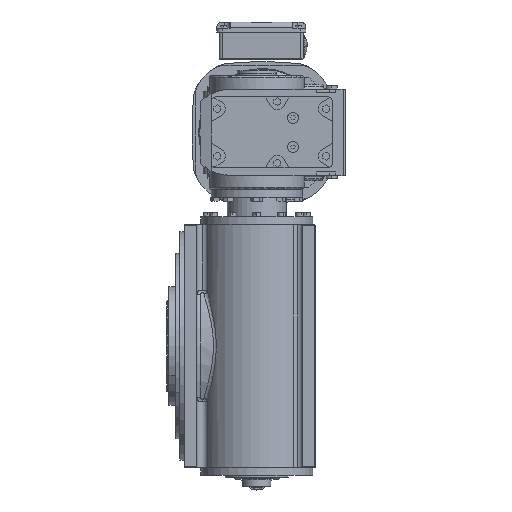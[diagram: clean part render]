
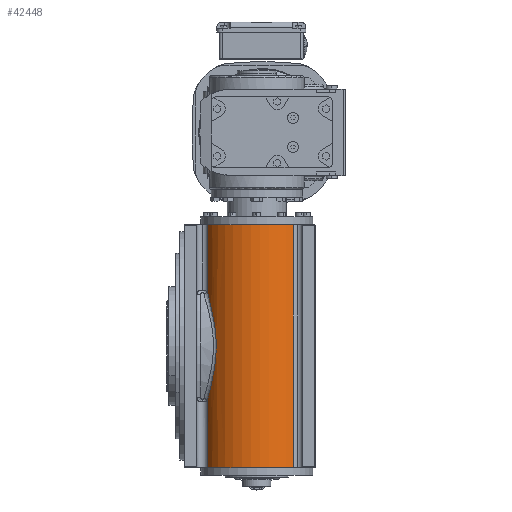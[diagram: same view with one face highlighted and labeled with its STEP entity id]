
A CAD part, left-side view. The second image highlights one B-rep face of the part: STEP entity #42448.
In plain terms, the highlighted cylindrical face has radius 71 mm (diameter 142 mm), a partial arc.
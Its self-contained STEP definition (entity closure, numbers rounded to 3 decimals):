
#424 = AXIS2_PLACEMENT_3D ( 'NONE', #73241, #5886, #59479 ) ;
#917 = CARTESIAN_POINT ( 'NONE',  ( -128.109, 136.808, 68.859 ) ) ;
#1526 = CARTESIAN_POINT ( 'NONE',  ( -144.049, 125.334, 2.839 ) ) ;
#5886 = DIRECTION ( 'NONE',  ( 0., 0., 1. ) ) ;
#9291 = ORIENTED_EDGE ( 'NONE', *, *, #74101, .T. ) ;
#11350 = CARTESIAN_POINT ( 'NONE',  ( -95., 74., -154. ) ) ;
#11832 = DIRECTION ( 'NONE',  ( 0., 0., 1. ) ) ;
#13908 = CARTESIAN_POINT ( 'NONE',  ( -136.889, 131.329, 46.942 ) ) ;
#14103 = CIRCLE ( 'NONE', #67476, 71. ) ;
#14820 = VERTEX_POINT ( 'NONE', #39199 ) ;
#15810 = CARTESIAN_POINT ( 'NONE',  ( -132.999, 134.023, -58.167 ) ) ;
#17063 = CARTESIAN_POINT ( 'NONE',  ( -95., 74., -154. ) ) ;
#17245 = CARTESIAN_POINT ( 'NONE',  ( -142.826, 126.476, -19.641 ) ) ;
#17331 = AXIS2_PLACEMENT_3D ( 'NONE', #11350, #11832, #93961 ) ;
#18666 = FACE_OUTER_BOUND ( 'NONE', #79812, .T. ) ;
#22576 = CIRCLE ( 'NONE', #424, 71. ) ;
#23188 = CARTESIAN_POINT ( 'NONE',  ( -140.598, 128.429, -32.922 ) ) ;
#23331 = VERTEX_POINT ( 'NONE', #917 ) ;
#26585 = CYLINDRICAL_SURFACE ( 'NONE', #17331, 71. ) ;
#29581 = CARTESIAN_POINT ( 'NONE',  ( -138.57, 130.069, 41.275 ) ) ;
#30539 = CARTESIAN_POINT ( 'NONE',  ( -143.692, 125.681, -12.164 ) ) ;
#30826 = VERTEX_POINT ( 'NONE', #65578 ) ;
#30845 = DIRECTION ( 'NONE',  ( 0., 0., 1. ) ) ;
#31088 = VECTOR ( 'NONE', #61790, 1000. ) ;
#31507 = CARTESIAN_POINT ( 'NONE',  ( -130.722, 135.43, -63.561 ) ) ;
#31997 = CARTESIAN_POINT ( 'NONE',  ( -142.199, 127.041, -24.119 ) ) ;
#34140 = EDGE_CURVE ( 'NONE', #86741, #14820, #14103, .T. ) ;
#34587 = ORIENTED_EDGE ( 'NONE', *, *, #76615, .T. ) ;
#36218 = B_SPLINE_CURVE_WITH_KNOTS ( 'NONE', 3,
 ( #89601, #96553, #50733, #97049, #96050, #13908, #43322, #29581, #59570, #58622, #51222, #38839, #91538, #69855, #84565, #61493, #1526, #47686, #30539, #17245, #55128, #31997, #47206, #91060, #23188, #76718, #83103, #15810, #31507, #77212 ),
 .UNSPECIFIED., .F., .F.,
 ( 4, 2, 2, 2, 2, 2, 2, 2, 2, 2, 2, 2, 2, 2, 4 ),
 ( 0., 0.018, 0.023, 0.027, 0.036, 0.055, 0.059, 0.064, 0.073, 0.091, 0.095, 0.1, 0.109, 0.127, 0.145 ),
 .UNSPECIFIED. ) ;
#38839 = CARTESIAN_POINT ( 'NONE',  ( -143.2, 126.132, 16.387 ) ) ;
#39199 = CARTESIAN_POINT ( 'NONE',  ( -148.721, 27.577, -154. ) ) ;
#39395 = VECTOR ( 'NONE', #54565, 1000. ) ;
#40200 = ORIENTED_EDGE ( 'NONE', *, *, #66248, .F. ) ;
#42151 = DIRECTION ( 'NONE',  ( 0., 0., -1. ) ) ;
#42448 = ADVANCED_FACE ( 'NONE', ( #18666 ), #26585, .T. ) ;
#43322 = CARTESIAN_POINT ( 'NONE',  ( -137.325, 131.008, 45.529 ) ) ;
#46657 = CARTESIAN_POINT ( 'NONE',  ( -128.109, 136.808, 500000. ) ) ;
#47206 = CARTESIAN_POINT ( 'NONE',  ( -141.962, 127.251, -25.6 ) ) ;
#47686 = CARTESIAN_POINT ( 'NONE',  ( -144.04, 125.343, -6.17 ) ) ;
#50733 = CARTESIAN_POINT ( 'NONE',  ( -133.018, 134.012, 58.125 ) ) ;
#51222 = CARTESIAN_POINT ( 'NONE',  ( -142.345, 126.918, 23.884 ) ) ;
#54565 = DIRECTION ( 'NONE',  ( 0., 0., 1. ) ) ;
#55128 = CARTESIAN_POINT ( 'NONE',  ( -142.631, 126.653, -21.138 ) ) ;
#58090 = CARTESIAN_POINT ( 'NONE',  ( -128.109, 136.808, -154. ) ) ;
#58530 = VERTEX_POINT ( 'NONE', #69426 ) ;
#58622 = CARTESIAN_POINT ( 'NONE',  ( -141.327, 127.831, 29.758 ) ) ;
#59479 = DIRECTION ( 'NONE',  ( 1., 0., 0. ) ) ;
#59570 = CARTESIAN_POINT ( 'NONE',  ( -139.32, 129.475, 38.415 ) ) ;
#61493 = CARTESIAN_POINT ( 'NONE',  ( -143.967, 125.413, 5.846 ) ) ;
#61782 = DIRECTION ( 'NONE',  ( 1., 0., 0. ) ) ;
#61790 = DIRECTION ( 'NONE',  ( 0., 0., 1. ) ) ;
#63727 = EDGE_CURVE ( 'NONE', #30826, #58530, #22576, .T. ) ;
#65372 = ORIENTED_EDGE ( 'NONE', *, *, #63727, .F. ) ;
#65578 = CARTESIAN_POINT ( 'NONE',  ( -128.109, 136.808, 154. ) ) ;
#66248 = EDGE_CURVE ( 'NONE', #23331, #30826, #69667, .T. ) ;
#67476 = AXIS2_PLACEMENT_3D ( 'NONE', #17063, #30845, #61782 ) ;
#68089 = VECTOR ( 'NONE', #42151, 1000. ) ;
#69426 = CARTESIAN_POINT ( 'NONE',  ( -148.721, 27.577, 154. ) ) ;
#69667 = LINE ( 'NONE', #76530, #31088 ) ;
#69855 = CARTESIAN_POINT ( 'NONE',  ( -143.607, 125.753, 11.865 ) ) ;
#73241 = CARTESIAN_POINT ( 'NONE',  ( -95., 74., 154. ) ) ;
#73371 = CARTESIAN_POINT ( 'NONE',  ( -128.109, 136.808, -68.859 ) ) ;
#74101 = EDGE_CURVE ( 'NONE', #14820, #58530, #91945, .T. ) ;
#76154 = CARTESIAN_POINT ( 'NONE',  ( -148.721, 27.577, -154. ) ) ;
#76265 = VERTEX_POINT ( 'NONE', #73371 ) ;
#76530 = CARTESIAN_POINT ( 'NONE',  ( -128.109, 136.808, -500000. ) ) ;
#76615 = EDGE_CURVE ( 'NONE', #76265, #86741, #84022, .T. ) ;
#76718 = CARTESIAN_POINT ( 'NONE',  ( -138.584, 130.076, -41.542 ) ) ;
#77212 = CARTESIAN_POINT ( 'NONE',  ( -128.109, 136.808, -68.859 ) ) ;
#77394 = ORIENTED_EDGE ( 'NONE', *, *, #92213, .T. ) ;
#79812 = EDGE_LOOP ( 'NONE', ( #40200, #77394, #34587, #88810, #9291, #65372 ) ) ;
#83103 = CARTESIAN_POINT ( 'NONE',  ( -136.93, 131.346, -47.157 ) ) ;
#84022 = LINE ( 'NONE', #46657, #68089 ) ;
#84565 = CARTESIAN_POINT ( 'NONE',  ( -143.713, 125.653, 10.36 ) ) ;
#86741 = VERTEX_POINT ( 'NONE', #58090 ) ;
#88810 = ORIENTED_EDGE ( 'NONE', *, *, #34140, .T. ) ;
#89601 = CARTESIAN_POINT ( 'NONE',  ( -128.109, 136.808, 68.859 ) ) ;
#91060 = CARTESIAN_POINT ( 'NONE',  ( -141.192, 127.924, -30.015 ) ) ;
#91538 = CARTESIAN_POINT ( 'NONE',  ( -143.351, 125.993, 14.878 ) ) ;
#91945 = LINE ( 'NONE', #76154, #39395 ) ;
#92213 = EDGE_CURVE ( 'NONE', #23331, #76265, #36218, .T. ) ;
#93961 = DIRECTION ( 'NONE',  ( 1., 0., 0. ) ) ;
#96050 = CARTESIAN_POINT ( 'NONE',  ( -135.977, 131.984, 49.755 ) ) ;
#96553 = CARTESIAN_POINT ( 'NONE',  ( -130.725, 135.429, 63.555 ) ) ;
#97049 = CARTESIAN_POINT ( 'NONE',  ( -135.5, 132.319, 51.157 ) ) ;
